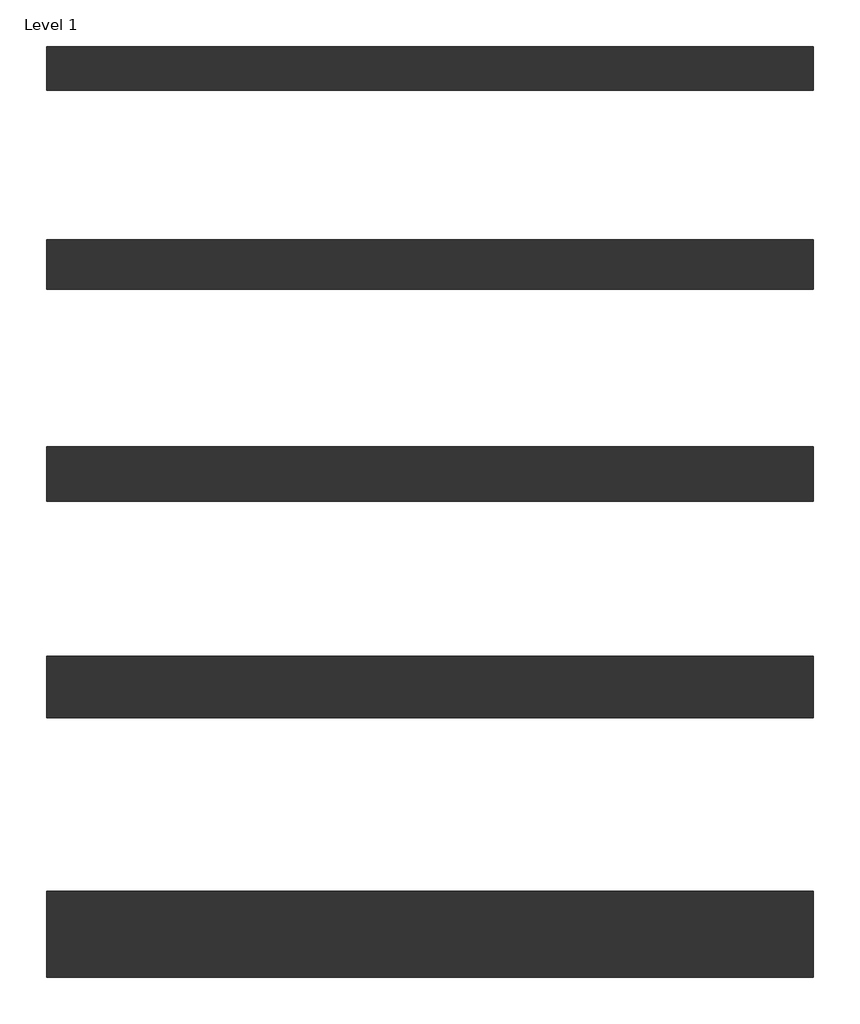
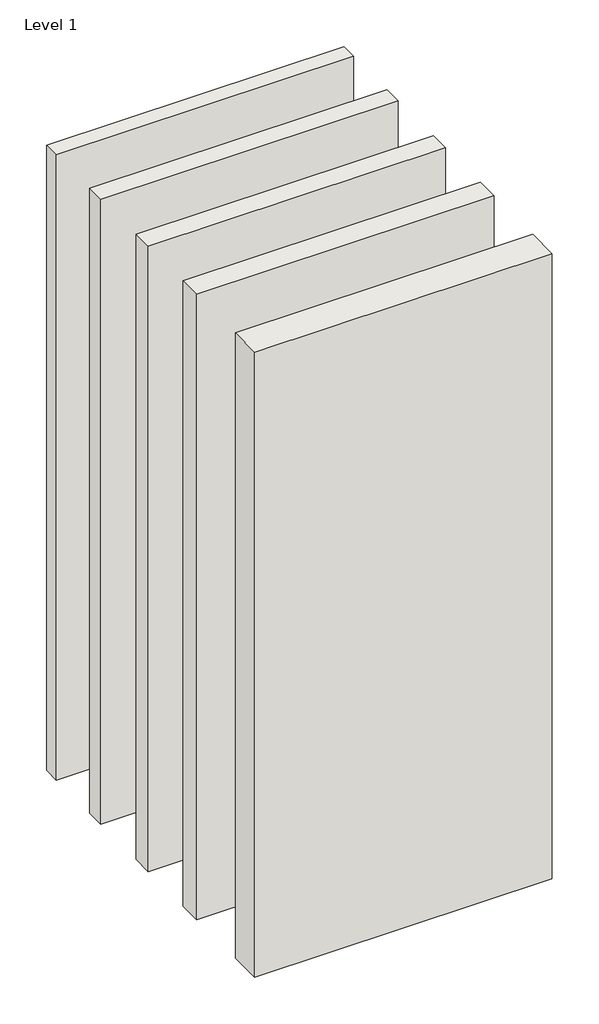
# One storey: 5 walls.
"""IFC4 building model written with IfcOpenShell, lengths in millimetres."""

from ifc_helpers import new_model, si_unit, origin, origin_with_axes, place, context, project, spatial, polyline, outline, extrude, element, save

model = new_model("IFC4")

# Units and contexts
model_context = context("Model", 3, world=origin())
ifc_project = project(units=[si_unit("LENGTHUNIT", "METRE", prefix="MILLI")], contexts=[model_context])

# Site, building, storey
site = spatial("IfcSite", under=ifc_project)
building = spatial("IfcBuilding", under=site)
storey = spatial("IfcBuildingStorey", under=building, Name="Level 1", Elevation=0.0)

# Walls
placement = place(None, origin())
element("IfcWall", 1, ObjectType="Interior-Steel Frame-Single Stud ECO8-CSR3041-103mm", at=placement, inside=storey, context=model_context, shape_type="SweptSolid", body=[
    extrude(outline(polyline([(-238.3984364, -2590.4806639), (1561.6015636, -2590.4806639), (1561.6015636, -2693.4806639), (-238.3984364, -2693.4806639), (-238.3984364, -2590.4806639)])), origin_with_axes(), (0.0, 0.0, 1.0), 4000.0),
])
element("IfcWall", 2, ObjectType="Interior-Steel Frame-Single Stud ECO8-CSR3041-116mm", at=placement, inside=storey, context=model_context, shape_type="SweptSolid", body=[
    extrude(outline(polyline([(-238.3984364, -3043.9806639), (1561.6015636, -3043.9806639), (1561.6015636, -3159.9806639), (-238.3984364, -3159.9806639), (-238.3984364, -3043.9806639)])), origin_with_axes(), (0.0, 0.0, 1.0), 4000.0),
])
element("IfcWall", 3, ObjectType="Interior-Steel Frame-Single Stud ECO8-CSR3041-128mm", at=placement, inside=storey, context=model_context, shape_type="SweptSolid", body=[
    extrude(outline(polyline([(-238.3984364, -3529.4936807), (1561.6015636, -3529.4936807), (1561.6015636, -3657.4936807), (-238.3984364, -3657.4936807), (-238.3984364, -3529.4936807)])), origin_with_axes(), (0.0, 0.0, 1.0), 4000.0),
])
element("IfcWall", 4, ObjectType="Interior-Steel Frame-Single Stud ECO8-CSR3041-144mm", at=placement, inside=storey, context=model_context, shape_type="SweptSolid", body=[
    extrude(outline(polyline([(-238.3984364, -4021.4936807), (1561.6015636, -4021.4936807), (1561.6015636, -4165.4936807), (-238.3984364, -4165.4936807), (-238.3984364, -4021.4936807)])), origin_with_axes(), (0.0, 0.0, 1.0), 4000.0),
])
element("IfcWall", 5, ObjectType="Interior-Steel Frame-Single Stud ECO8-CSR3041-202", at=placement, inside=storey, context=model_context, shape_type="SweptSolid", body=[
    extrude(outline(polyline([(-238.3984364, -4572.4936807), (1561.6015636, -4572.4936807), (1561.6015636, -4774.4936807), (-238.3984364, -4774.4936807), (-238.3984364, -4572.4936807)])), origin_with_axes(), (0.0, 0.0, 1.0), 4000.0),
])

save(model, "model.ifc")
